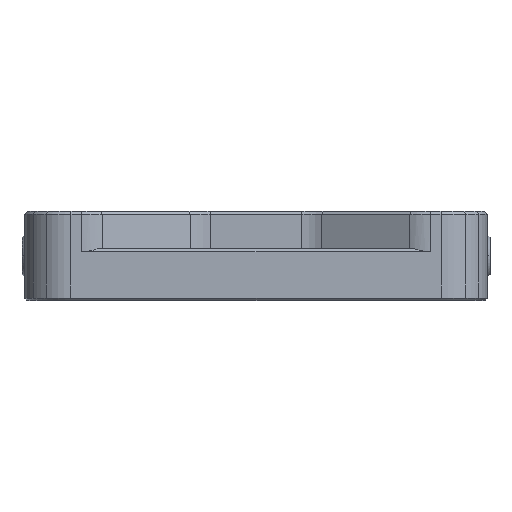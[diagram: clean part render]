
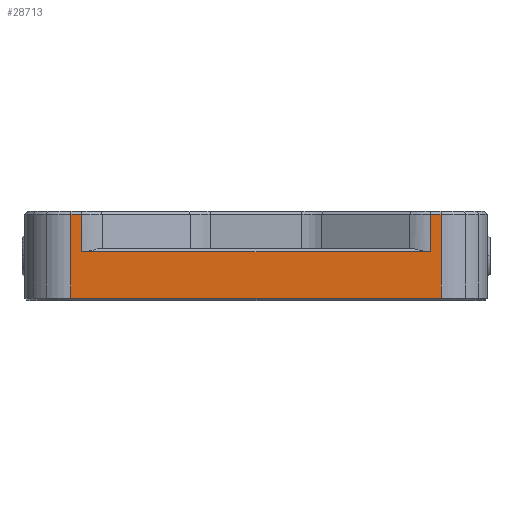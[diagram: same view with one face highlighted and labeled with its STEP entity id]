
A CAD part, top view. The second image highlights one B-rep face of the part: STEP entity #28713.
In plain terms, the highlighted planar face has unit normal (0, 0, 1).
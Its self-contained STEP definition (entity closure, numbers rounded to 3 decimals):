
#51 = VECTOR ( 'NONE', #23786, 1000. ) ;
#678 = CARTESIAN_POINT ( 'NONE',  ( 62.469, 0.635, 78. ) ) ;
#749 = VECTOR ( 'NONE', #3353, 1000. ) ;
#1340 = CARTESIAN_POINT ( 'NONE',  ( -58.907, 16.284, 78. ) ) ;
#2487 = ORIENTED_EDGE ( 'NONE', *, *, #4652, .T. ) ;
#3092 = AXIS2_PLACEMENT_3D ( 'NONE', #21065, #12855, #32215 ) ;
#3310 = DIRECTION ( 'NONE',  ( 0., 1., 0. ) ) ;
#3353 = DIRECTION ( 'NONE',  ( 1., 0., 0. ) ) ;
#4559 = CARTESIAN_POINT ( 'NONE',  ( 0., 16.284, 78. ) ) ;
#4652 = EDGE_CURVE ( 'NONE', #29833, #24781, #15244, .T. ) ;
#4653 = VERTEX_POINT ( 'NONE', #27202 ) ;
#5056 = ORIENTED_EDGE ( 'NONE', *, *, #8005, .T. ) ;
#5321 = EDGE_CURVE ( 'NONE', #24781, #12165, #12140, .T. ) ;
#7581 = ORIENTED_EDGE ( 'NONE', *, *, #5321, .T. ) ;
#7645 = CARTESIAN_POINT ( 'NONE',  ( 62.469, 0.635, 78. ) ) ;
#8005 = EDGE_CURVE ( 'NONE', #31182, #34476, #13727, .T. ) ;
#8901 = DIRECTION ( 'NONE',  ( 0., -1., 0. ) ) ;
#10176 = ORIENTED_EDGE ( 'NONE', *, *, #14935, .T. ) ;
#11399 = ORIENTED_EDGE ( 'NONE', *, *, #15003, .T. ) ;
#11531 = DIRECTION ( 'NONE',  ( 0., 1., 0. ) ) ;
#12140 = LINE ( 'NONE', #16230, #18634 ) ;
#12165 = VERTEX_POINT ( 'NONE', #31377 ) ;
#12451 = EDGE_CURVE ( 'NONE', #4653, #15866, #15188, .T. ) ;
#12855 = DIRECTION ( 'NONE',  ( 0., 0., 1. ) ) ;
#13632 = DIRECTION ( 'NONE',  ( -1., 0., 0. ) ) ;
#13727 = LINE ( 'NONE', #25293, #34044 ) ;
#14323 = CARTESIAN_POINT ( 'NONE',  ( 62.469, 30., 78. ) ) ;
#14935 = EDGE_CURVE ( 'NONE', #34476, #4653, #26882, .T. ) ;
#15003 = EDGE_CURVE ( 'NONE', #15866, #33480, #29030, .T. ) ;
#15188 = LINE ( 'NONE', #22672, #35482 ) ;
#15244 = LINE ( 'NONE', #27391, #21686 ) ;
#15295 = CARTESIAN_POINT ( 'NONE',  ( 58.907, 28.984, 78. ) ) ;
#15866 = VERTEX_POINT ( 'NONE', #32290 ) ;
#16230 = CARTESIAN_POINT ( 'NONE',  ( 58.907, 17.3, 78. ) ) ;
#16265 = DIRECTION ( 'NONE',  ( 0., -1., 0. ) ) ;
#16438 = CARTESIAN_POINT ( 'NONE',  ( 0., 28.984, 78. ) ) ;
#18634 = VECTOR ( 'NONE', #16265, 1000. ) ;
#21065 = CARTESIAN_POINT ( 'NONE',  ( 0., 0., 78. ) ) ;
#21425 = VECTOR ( 'NONE', #11531, 1000. ) ;
#21686 = VECTOR ( 'NONE', #28308, 1000. ) ;
#21876 = LINE ( 'NONE', #4559, #51 ) ;
#22451 = FACE_OUTER_BOUND ( 'NONE', #28076, .T. ) ;
#22620 = EDGE_CURVE ( 'NONE', #12165, #31182, #21876, .T. ) ;
#22672 = CARTESIAN_POINT ( 'NONE',  ( -62.469, 0., 78. ) ) ;
#23786 = DIRECTION ( 'NONE',  ( -1., 0., 0. ) ) ;
#24781 = VERTEX_POINT ( 'NONE', #15295 ) ;
#25224 = CARTESIAN_POINT ( 'NONE',  ( 62.469, 28.984, 78. ) ) ;
#25275 = CARTESIAN_POINT ( 'NONE',  ( -58.907, 28.984, 78. ) ) ;
#25293 = CARTESIAN_POINT ( 'NONE',  ( -58.907, 30., 78. ) ) ;
#26485 = ORIENTED_EDGE ( 'NONE', *, *, #12451, .T. ) ;
#26882 = LINE ( 'NONE', #16438, #33395 ) ;
#27202 = CARTESIAN_POINT ( 'NONE',  ( -62.469, 28.984, 78. ) ) ;
#27391 = CARTESIAN_POINT ( 'NONE',  ( 0., 28.984, 78. ) ) ;
#28076 = EDGE_LOOP ( 'NONE', ( #26485, #11399, #32175, #2487, #7581, #28264, #5056, #10176 ) ) ;
#28264 = ORIENTED_EDGE ( 'NONE', *, *, #22620, .T. ) ;
#28308 = DIRECTION ( 'NONE',  ( -1., 0., 0. ) ) ;
#28713 = ADVANCED_FACE ( 'NONE', ( #22451 ), #29410, .T. ) ;
#28756 = LINE ( 'NONE', #14323, #21425 ) ;
#29030 = LINE ( 'NONE', #678, #749 ) ;
#29410 = PLANE ( 'NONE',  #3092 ) ;
#29833 = VERTEX_POINT ( 'NONE', #25224 ) ;
#30474 = EDGE_CURVE ( 'NONE', #33480, #29833, #28756, .T. ) ;
#31182 = VERTEX_POINT ( 'NONE', #1340 ) ;
#31377 = CARTESIAN_POINT ( 'NONE',  ( 58.907, 16.284, 78. ) ) ;
#32175 = ORIENTED_EDGE ( 'NONE', *, *, #30474, .T. ) ;
#32215 = DIRECTION ( 'NONE',  ( 1., 0., 0. ) ) ;
#32290 = CARTESIAN_POINT ( 'NONE',  ( -62.469, 0.635, 78. ) ) ;
#33395 = VECTOR ( 'NONE', #13632, 1000. ) ;
#33480 = VERTEX_POINT ( 'NONE', #7645 ) ;
#34044 = VECTOR ( 'NONE', #3310, 1000. ) ;
#34476 = VERTEX_POINT ( 'NONE', #25275 ) ;
#35482 = VECTOR ( 'NONE', #8901, 1000. ) ;
